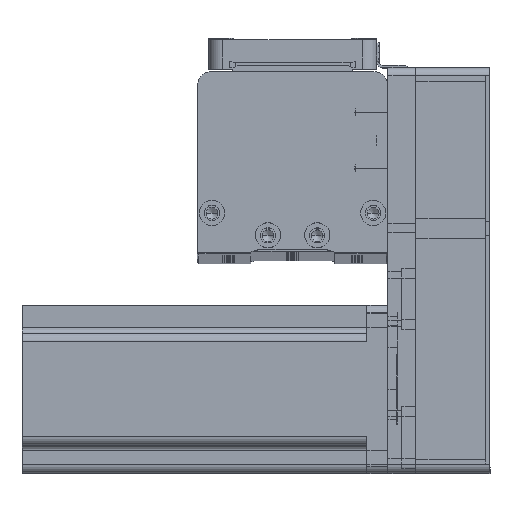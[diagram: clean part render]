
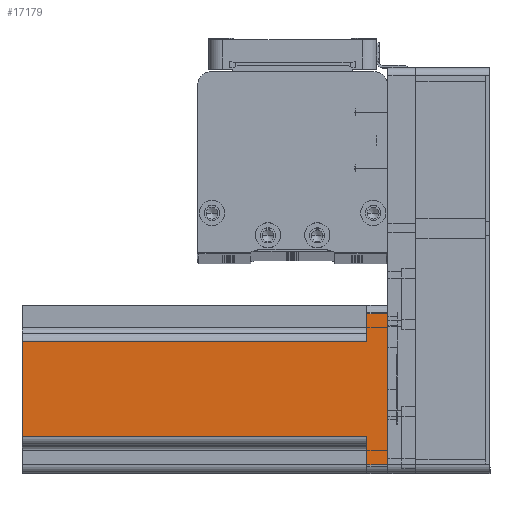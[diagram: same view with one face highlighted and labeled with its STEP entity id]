
A CAD part, top view. The second image highlights one B-rep face of the part: STEP entity #17179.
In plain terms, the highlighted planar face has unit normal (0, 0, 1) as drawn and (0, 1, 0) by its records, which use the part's own axes.
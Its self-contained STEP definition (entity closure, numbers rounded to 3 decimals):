
#51 = CARTESIAN_POINT ( 'NONE',  ( -27., 30., 130.7 ) ) ;
#1960 = FACE_OUTER_BOUND ( 'NONE', #12591, .T. ) ;
#2892 = ORIENTED_EDGE ( 'NONE', *, *, #23524, .T. ) ;
#3641 = VERTEX_POINT ( 'NONE', #10081 ) ;
#5300 = LINE ( 'NONE', #12244, #25687 ) ;
#9596 = LINE ( 'NONE', #16938, #19786 ) ;
#10081 = CARTESIAN_POINT ( 'NONE',  ( 17., 30., 130.7 ) ) ;
#10223 = ORIENTED_EDGE ( 'NONE', *, *, #31027, .T. ) ;
#10943 = CARTESIAN_POINT ( 'NONE',  ( -17., 30., 130.7 ) ) ;
#11965 = LINE ( 'NONE', #28969, #46610 ) ;
#12072 = ORIENTED_EDGE ( 'NONE', *, *, #56125, .T. ) ;
#12244 = CARTESIAN_POINT ( 'NONE',  ( 20., 30., 7.5 ) ) ;
#12591 = EDGE_LOOP ( 'NONE', ( #10223, #38443, #41913, #47785, #25384, #26214, #12072, #2892 ) ) ;
#14413 = EDGE_CURVE ( 'NONE', #3641, #19834, #9596, .T. ) ;
#14928 = VERTEX_POINT ( 'NONE', #50784 ) ;
#15821 = DIRECTION ( 'NONE',  ( 1., 0., 0. ) ) ;
#16358 = DIRECTION ( 'NONE',  ( -1., 0., 0. ) ) ;
#16938 = CARTESIAN_POINT ( 'NONE',  ( 17., 30., 130.7 ) ) ;
#17179 = ADVANCED_FACE ( 'NONE', ( #1960 ), #54939, .F. ) ;
#17488 = VERTEX_POINT ( 'NONE', #44168 ) ;
#17541 = LINE ( 'NONE', #18208, #50947 ) ;
#18208 = CARTESIAN_POINT ( 'NONE',  ( 30., 30., 130.7 ) ) ;
#19786 = VECTOR ( 'NONE', #30055, 1000. ) ;
#19834 = VERTEX_POINT ( 'NONE', #30122 ) ;
#20219 = CARTESIAN_POINT ( 'NONE',  ( 30., 30., 130.7 ) ) ;
#21811 = EDGE_CURVE ( 'NONE', #14928, #19834, #5300, .T. ) ;
#22162 = LINE ( 'NONE', #24494, #33785 ) ;
#22553 = DIRECTION ( 'NONE',  ( -1., 0., 0. ) ) ;
#22665 = EDGE_CURVE ( 'NONE', #14928, #17488, #54901, .T. ) ;
#23524 = EDGE_CURVE ( 'NONE', #53218, #44642, #47057, .T. ) ;
#24494 = CARTESIAN_POINT ( 'NONE',  ( 30., 30., 0. ) ) ;
#24579 = DIRECTION ( 'NONE',  ( 1., 0., 0. ) ) ;
#25384 = ORIENTED_EDGE ( 'NONE', *, *, #21811, .F. ) ;
#25687 = VECTOR ( 'NONE', #16358, 1000. ) ;
#25898 = CARTESIAN_POINT ( 'NONE',  ( -17., 30., 130.7 ) ) ;
#26043 = DIRECTION ( 'NONE',  ( 0., 0., 1. ) ) ;
#26214 = ORIENTED_EDGE ( 'NONE', *, *, #22665, .T. ) ;
#28398 = DIRECTION ( 'NONE',  ( 0., 0., 1. ) ) ;
#28969 = CARTESIAN_POINT ( 'NONE',  ( -20., 30., 7.5 ) ) ;
#30055 = DIRECTION ( 'NONE',  ( 0., 0., -1. ) ) ;
#30122 = CARTESIAN_POINT ( 'NONE',  ( 17., 30., 7.5 ) ) ;
#31027 = EDGE_CURVE ( 'NONE', #44642, #53155, #11965, .T. ) ;
#33785 = VECTOR ( 'NONE', #50615, 1000. ) ;
#34737 = CARTESIAN_POINT ( 'NONE',  ( -27., 30., 7.5 ) ) ;
#35732 = VECTOR ( 'NONE', #49188, 1000. ) ;
#37093 = VERTEX_POINT ( 'NONE', #25898 ) ;
#38443 = ORIENTED_EDGE ( 'NONE', *, *, #46469, .T. ) ;
#38456 = AXIS2_PLACEMENT_3D ( 'NONE', #20219, #50717, #24579 ) ;
#41457 = CARTESIAN_POINT ( 'NONE',  ( -27., 30., 0. ) ) ;
#41913 = ORIENTED_EDGE ( 'NONE', *, *, #55232, .F. ) ;
#44168 = CARTESIAN_POINT ( 'NONE',  ( 27., 30., 0. ) ) ;
#44368 = VECTOR ( 'NONE', #28398, 1000. ) ;
#44642 = VERTEX_POINT ( 'NONE', #34737 ) ;
#45291 = CARTESIAN_POINT ( 'NONE',  ( -17., 30., 7.5 ) ) ;
#45705 = VECTOR ( 'NONE', #26043, 1000. ) ;
#46469 = EDGE_CURVE ( 'NONE', #53155, #37093, #56039, .T. ) ;
#46610 = VECTOR ( 'NONE', #15821, 1000. ) ;
#47057 = LINE ( 'NONE', #51, #45705 ) ;
#47785 = ORIENTED_EDGE ( 'NONE', *, *, #14413, .T. ) ;
#49188 = DIRECTION ( 'NONE',  ( 0., 0., -1. ) ) ;
#50615 = DIRECTION ( 'NONE',  ( -1., 0., 0. ) ) ;
#50717 = DIRECTION ( 'NONE',  ( 0., -1., 0. ) ) ;
#50784 = CARTESIAN_POINT ( 'NONE',  ( 27., 30., 7.5 ) ) ;
#50947 = VECTOR ( 'NONE', #22553, 1000. ) ;
#53155 = VERTEX_POINT ( 'NONE', #45291 ) ;
#53218 = VERTEX_POINT ( 'NONE', #41457 ) ;
#53627 = CARTESIAN_POINT ( 'NONE',  ( 27., 30., 130.7 ) ) ;
#54901 = LINE ( 'NONE', #53627, #35732 ) ;
#54939 = PLANE ( 'NONE',  #38456 ) ;
#55232 = EDGE_CURVE ( 'NONE', #3641, #37093, #17541, .T. ) ;
#56039 = LINE ( 'NONE', #10943, #44368 ) ;
#56125 = EDGE_CURVE ( 'NONE', #17488, #53218, #22162, .T. ) ;
